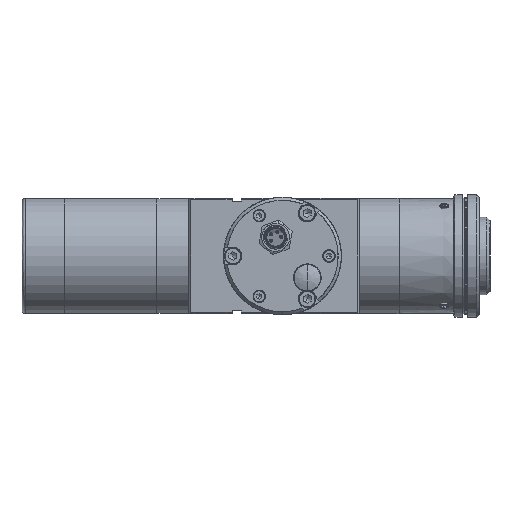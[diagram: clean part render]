
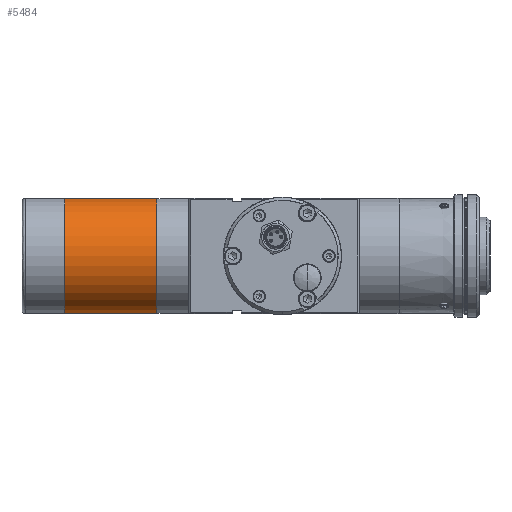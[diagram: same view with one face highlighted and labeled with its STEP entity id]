
A CAD part, front view. The second image highlights one B-rep face of the part: STEP entity #5484.
In plain terms, the highlighted face is a revolution surface.
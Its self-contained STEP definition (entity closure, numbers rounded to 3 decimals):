
#5484 = ADVANCED_FACE('',(#5485),#5500,.T.);
#5485 = FACE_BOUND('',#5486,.T.);
#5486 = EDGE_LOOP('',(#5487,#5513,#5528,#5544));
#5487 = ORIENTED_EDGE('',*,*,#5488,.F.);
#5488 = EDGE_CURVE('',#5489,#5491,#5493,.T.);
#5489 = VERTEX_POINT('',#5490);
#5490 = CARTESIAN_POINT('',(146.662,0.,
    18.85));
#5491 = VERTEX_POINT('',#5492);
#5492 = CARTESIAN_POINT('',(146.662,0.,
    -18.85));
#5493 = SURFACE_CURVE('',#5494,(#5499),.PCURVE_S1.);
#5494 = CIRCLE('',#5495,18.85);
#5495 = AXIS2_PLACEMENT_3D('',#5496,#5497,#5498);
#5496 = CARTESIAN_POINT('',(146.662,0.,
    0.));
#5497 = DIRECTION('',(1.,0.,0.));
#5498 = DIRECTION('',(0.,0.,1.));
#5499 = PCURVE('',#5500,#5508);
#5500 = SURFACE_OF_REVOLUTION('',#5501,#5505);
#5501 = LINE('',#5502,#5503);
#5502 = CARTESIAN_POINT('',(176.856,0.,18.85));
#5503 = VECTOR('',#5504,1.);
#5504 = DIRECTION('',(-1.,0.,0.));
#5505 = AXIS1_PLACEMENT('',#5506,#5507);
#5506 = CARTESIAN_POINT('',(1.222,0.,0.));
#5507 = DIRECTION('',(1.,0.,0.));
#5508 = DEFINITIONAL_REPRESENTATION('',(#5509),#5512);
#5509 = B_SPLINE_CURVE_WITH_KNOTS('',1,(#5510,#5511),.UNSPECIFIED.,.F.,
  .F.,(2,2),(0.,3.142),
  .PIECEWISE_BEZIER_KNOTS.);
#5510 = CARTESIAN_POINT('',(0.,30.194));
#5511 = CARTESIAN_POINT('',(3.142,30.194));
#5512 = ( GEOMETRIC_REPRESENTATION_CONTEXT(2) 
PARAMETRIC_REPRESENTATION_CONTEXT() REPRESENTATION_CONTEXT('',''
  ) );
#5513 = ORIENTED_EDGE('',*,*,#5514,.F.);
#5514 = EDGE_CURVE('',#5515,#5489,#5517,.T.);
#5515 = VERTEX_POINT('',#5516);
#5516 = CARTESIAN_POINT('',(176.856,0.,
    18.85));
#5517 = SURFACE_CURVE('',#5518,(#5522),.PCURVE_S1.);
#5518 = LINE('',#5519,#5520);
#5519 = CARTESIAN_POINT('',(176.856,0.,18.85));
#5520 = VECTOR('',#5521,1.);
#5521 = DIRECTION('',(-1.,0.,0.));
#5522 = PCURVE('',#5500,#5523);
#5523 = DEFINITIONAL_REPRESENTATION('',(#5524),#5527);
#5524 = B_SPLINE_CURVE_WITH_KNOTS('',1,(#5525,#5526),.UNSPECIFIED.,.F.,
  .F.,(2,2),(0.,30.194),.PIECEWISE_BEZIER_KNOTS.);
#5525 = CARTESIAN_POINT('',(0.,0.));
#5526 = CARTESIAN_POINT('',(0.,30.194));
#5527 = ( GEOMETRIC_REPRESENTATION_CONTEXT(2) 
PARAMETRIC_REPRESENTATION_CONTEXT() REPRESENTATION_CONTEXT('',''
  ) );
#5528 = ORIENTED_EDGE('',*,*,#5529,.F.);
#5529 = EDGE_CURVE('',#5530,#5515,#5532,.T.);
#5530 = VERTEX_POINT('',#5531);
#5531 = CARTESIAN_POINT('',(176.856,0.,
    -18.85));
#5532 = SURFACE_CURVE('',#5533,(#5538),.PCURVE_S1.);
#5533 = CIRCLE('',#5534,18.85);
#5534 = AXIS2_PLACEMENT_3D('',#5535,#5536,#5537);
#5535 = CARTESIAN_POINT('',(176.856,0.,
    0.));
#5536 = DIRECTION('',(-1.,0.,0.));
#5537 = DIRECTION('',(0.,0.,-1.));
#5538 = PCURVE('',#5500,#5539);
#5539 = DEFINITIONAL_REPRESENTATION('',(#5540),#5543);
#5540 = B_SPLINE_CURVE_WITH_KNOTS('',1,(#5541,#5542),.UNSPECIFIED.,.F.,
  .F.,(2,2),(0.,3.142),.PIECEWISE_BEZIER_KNOTS.);
#5541 = CARTESIAN_POINT('',(3.142,0.));
#5542 = CARTESIAN_POINT('',(0.,0.));
#5543 = ( GEOMETRIC_REPRESENTATION_CONTEXT(2) 
PARAMETRIC_REPRESENTATION_CONTEXT() REPRESENTATION_CONTEXT('',''
  ) );
#5544 = ORIENTED_EDGE('',*,*,#5545,.F.);
#5545 = EDGE_CURVE('',#5491,#5530,#5546,.T.);
#5546 = SURFACE_CURVE('',#5547,(#5551),.PCURVE_S1.);
#5547 = LINE('',#5548,#5549);
#5548 = CARTESIAN_POINT('',(146.662,0.,-18.85));
#5549 = VECTOR('',#5550,1.);
#5550 = DIRECTION('',(1.,0.,0.));
#5551 = PCURVE('',#5500,#5552);
#5552 = DEFINITIONAL_REPRESENTATION('',(#5553),#5556);
#5553 = B_SPLINE_CURVE_WITH_KNOTS('',1,(#5554,#5555),.UNSPECIFIED.,.F.,
  .F.,(2,2),(0.,30.194),.PIECEWISE_BEZIER_KNOTS.);
#5554 = CARTESIAN_POINT('',(3.142,30.194));
#5555 = CARTESIAN_POINT('',(3.142,0.));
#5556 = ( GEOMETRIC_REPRESENTATION_CONTEXT(2) 
PARAMETRIC_REPRESENTATION_CONTEXT() REPRESENTATION_CONTEXT('',''
  ) );
